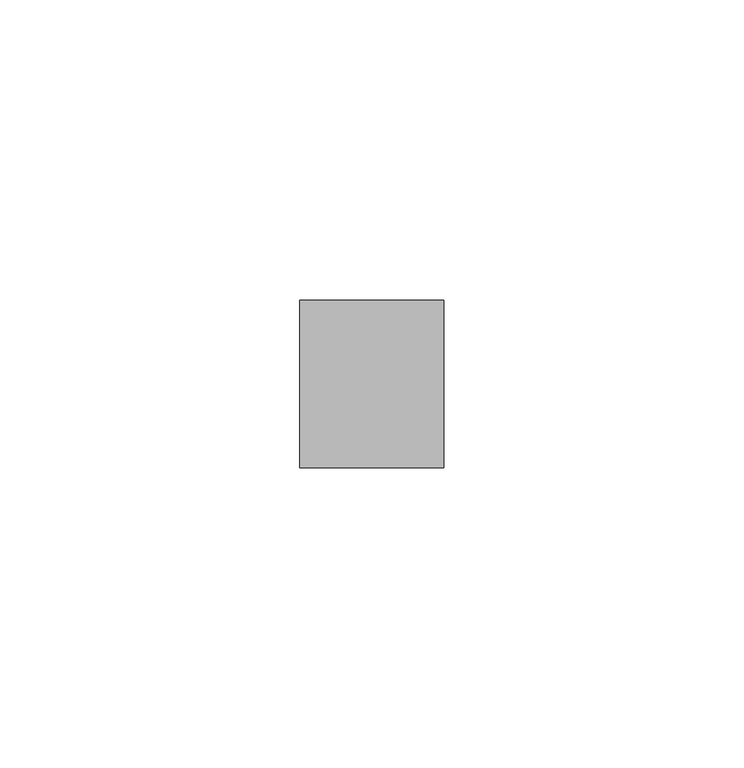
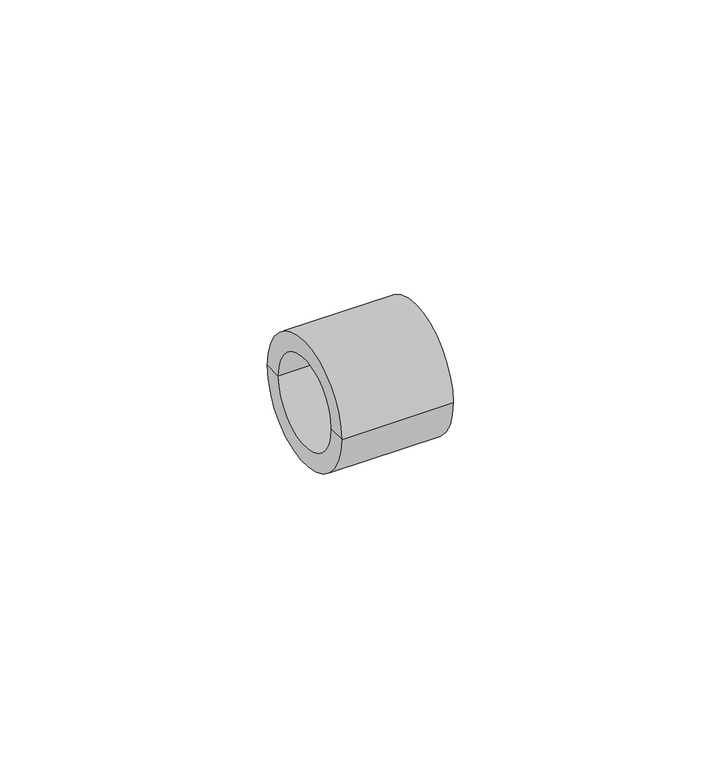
"""IFC4 building model written with IfcOpenShell, lengths in millimetres: pipe fitting geometry, EGB_VASEN_ PPR_Tapon WXR700 : Tapón WXR700."""

from ifc_helpers import new_model, si_unit, frame, origin, place, context, project, spatial, polyline, circle_curve, source, transform, mapped, element, save
from ifc_brep_helpers import plane_surface, cylinder_surface, revolved_surface, advanced_brep


def pipe_fitting_e13ee615(model_context):
    return source(origin(), model_context, "Body", "AdvancedBrep", [
        advanced_brep(
        [(0.0, -14.0, 0.0), (0.0, 14.0, 0.0), (24.0, 14.0, 0.0), (24.0, -14.0, 0.0), (0.0, -10.0, 0.0), (0.0, 10.0, 0.0), (20.0, -10.0, 0.0), (20.0, 10.0, 0.0), (20.0, 0.0, 0.0), (24.0, 0.0, 0.0)],
        [
            (0, 1, circle_curve(frame((0.0, 0.0, 0.0), z_axis=(1.0, 0.0, 0.0), x_axis=(0.0, 1.0, 0.0)), 14.0)),
            (1, 2),
            (2, 3, circle_curve(frame((24.0, 0.0, 0.0), z_axis=(-1.0, 0.0, 0.0), x_axis=(0.0, 1.0, 0.0)), 14.0)),
            (3, 0),
            (1, 0, circle_curve(frame((0.0, 0.0, 0.0), z_axis=(1.0, 0.0, 0.0), x_axis=(0.0, 1.0, 0.0)), 14.0)),
            (3, 2, circle_curve(frame((24.0, 0.0, 0.0), z_axis=(-1.0, 0.0, 0.0), x_axis=(0.0, 1.0, 0.0)), 14.0)),
            (4, 5, circle_curve(frame((0.0, 0.0, 0.0), z_axis=(1.0, 0.0, 0.0), x_axis=(0.0, 1.0, 0.0)), 10.0)),
            (5, 1),
            (0, 4),
            (5, 4, circle_curve(frame((0.0, 0.0, 0.0), z_axis=(1.0, 0.0, 0.0), x_axis=(0.0, 1.0, 0.0)), 10.0)),
            (6, 7, circle_curve(frame((20.0, 0.0, 0.0), z_axis=(1.0, 0.0, 0.0), x_axis=(0.0, 1.0, 0.0)), 10.0)),
            (7, 5),
            (4, 6),
            (7, 6, circle_curve(frame((20.0, 0.0, 0.0), z_axis=(1.0, 0.0, 0.0), x_axis=(0.0, 1.0, 0.0)), 10.0)),
            (8, 7),
            (6, 8),
            (2, 9),
            (9, 3),
        ],
        [
            cylinder_surface(frame((13.258615, 0.0, 0.0), z_axis=(-1.0, 0.0, 0.0), x_axis=(0.0, 1.0, 0.0)), 14.0),
            plane_surface(frame((0.0, 0.0, 0.0), z_axis=(-1.0, 0.0, 0.0), x_axis=(0.0, 1.0, 0.0))),
            revolved_surface(polyline([(0.0, 10.0, 0.0), (20.0, 10.0, 0.0)]), (13.258615, 0.0, 0.0), (-1.0, 0.0, 0.0)),
            plane_surface(frame((20.0, 0.0, 0.0), z_axis=(-1.0, 0.0, 0.0), x_axis=(0.0, 1.0, 0.0))),
            plane_surface(frame((24.0, 0.0, 0.0), z_axis=(1.0, 0.0, 0.0), x_axis=(0.0, 1.0, 0.0))),
        ],
        [
            (0, [[1, 2, 3, 4]]),
            (0, [[5, -4, 6, -2]]),
            (1, [[7, 8, -1, 9]]),
            (1, [[10, -9, -5, -8]]),
            (2, [[11, 12, -7, 13]]),
            (2, [[14, -13, -10, -12]]),
            (3, [[15, -11, 16]]),
            (3, [[-16, -14, -15]]),
            (4, [[-3, 17, 18]]),
            (4, [[-6, -18, -17]]),
        ],
    ),
    ])


if __name__ == "__main__":
    model = new_model("IFC4")
    model_context = context("Model", 3, world=origin())
    ifc_project = project(units=[si_unit("LENGTHUNIT", "METRE", prefix="MILLI")], contexts=[model_context])
    site = spatial("IfcSite", under=ifc_project)
    building = spatial("IfcBuilding", under=site)
    placement = place(None, origin())
    pipe_fitting_shape = pipe_fitting_e13ee615(model_context)
    element("IfcPipeFitting", 1, ObjectType="EGB_VASEN_ PPR_Tapon WXR700 : Tapón WXR700", at=placement, inside=building, context=model_context, shape_type="MappedRepresentation", body=[
        mapped(pipe_fitting_shape, transform((0.0, 0.0, 0.0), x_axis=(1.0, 0.0, 0.0), y_axis=(0.0, 1.0, 0.0), z_axis=(0.0, 0.0, 1.0))),
    ])
    save(model, "model.ifc")
